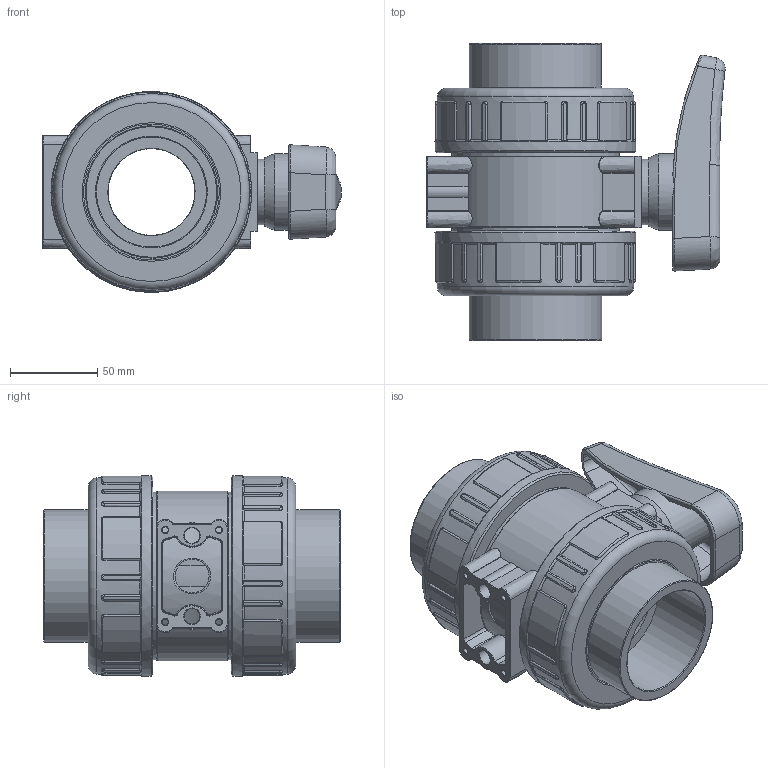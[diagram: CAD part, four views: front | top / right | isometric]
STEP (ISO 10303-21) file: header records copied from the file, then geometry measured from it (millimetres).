
FILE_DESCRIPTION(/* description */ (''),/* implementation_level */ '2;1');
FILE_NAME(/* name */ 'C:\Users\POLYPIPE\Desktop\DATASET INVENTOR\LIBRERIA EFFAST\3D_VALVOLE\3D_VALVOLE A SFERA\3D_BK1\3D_BDRBK1D\3D_BDRBK1D0630.stp',/* time_stamp */ '2018-01-23T15:35:12+01:00',/* author */ ('POLYPIPE'),/* organization */ (''),/* preprocessor_version */ 'ST-DEVELOPER v16.1',/* originating_system */ 'Autodesk Inventor 2016',/* authorisation */ '');
FILE_SCHEMA (('CONFIG_CONTROL_DESIGN'));
Products named in the file (1): 3D_BDRBK1D0630
Bounding box: 170.83 x 170 x 115 mm (x, y, z)
Volume: 983457.9 mm3; surface area: 206270.7 mm2
Topology: 3 solids, 4 shells, 689 faces, 1720 edges, 1069 vertices
Faces by surface type: bspline 209, plane 207, cylinder 207, torus 57, cone 5, sphere 4
Full cylindrical faces by diameter (mm): 9 x2, 25.1 x1, 37.4 x1, 44 x1, 49.7 x1, 50 x2, 50.3 x1, 63 x2, 75.8 x2, 77.8 x2, 79.3 x2, 88.9 x2, 95.9 x2, 96.5 x2, 112.4 x2, 115 x2
Entity records: 67895 total; most frequent: CARTESIAN_POINT 52011, ORIENTED_EDGE 3300, DIRECTION 2829, EDGE_CURVE 1648, AXIS2_PLACEMENT_3D 1105, VERTEX_POINT 1054, EDGE_LOOP 782, STYLED_ITEM 692
